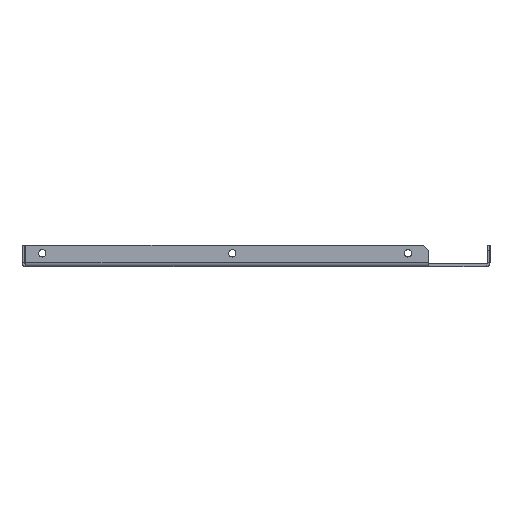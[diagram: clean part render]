
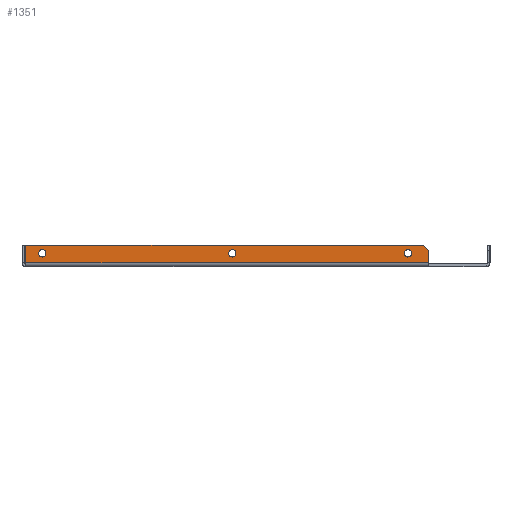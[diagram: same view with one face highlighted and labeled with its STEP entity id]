
A CAD part, left-side view. The second image highlights one B-rep face of the part: STEP entity #1351.
In plain terms, the highlighted planar face has unit normal (-1, 0, 0).
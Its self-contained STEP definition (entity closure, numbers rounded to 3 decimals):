
#306=CARTESIAN_POINT(' ',(-234.5,121.75,3.9));
#307=VERTEX_POINT(' ',#306);
#321=CARTESIAN_POINT(' ',(-234.5,121.75,6.));
#326=DIRECTION(' ',(-1.,0.,0.));
#331=DIRECTION(' ',(0.,0.,-1.));
#336=AXIS2_PLACEMENT_3D(' ',#321,#326,#331);
#341=CIRCLE('',#336,2.1);
#346=CARTESIAN_POINT(' ',(-234.5,121.75,8.1));
#347=VERTEX_POINT(' ',#346);
#351=EDGE_CURVE(' ',#307,#347,#341,.T.);
#891=CARTESIAN_POINT(' ',(-234.5,121.75,6.));
#896=DIRECTION(' ',(-1.,-0.,0.));
#901=DIRECTION(' ',(0.,0.,1.));
#906=AXIS2_PLACEMENT_3D(' ',#891,#896,#901);
#911=CIRCLE('',#906,2.1);
#916=EDGE_CURVE(' ',#347,#307,#911,.T.);
#941=DIRECTION(' ',(-1.,-0.,0.));
#946=CARTESIAN_POINT(' ',(-234.5,-98.25,10.5));
#951=DIRECTION(' ',(-0.,1.,0.));
#956=AXIS2_PLACEMENT_3D(' ',#946,#941,#951);
#961=PLANE('NONE',#956);
#966=CARTESIAN_POINT(' ',(-234.5,-98.25,7.5));
#971=DIRECTION(' ',(0.,0.,-1.));
#976=VECTOR(' ',#971,1.);
#981=LINE('',#966,#976);
#986=CARTESIAN_POINT(' ',(-234.5,-98.25,7.5));
#987=VERTEX_POINT(' ',#986);
#991=CARTESIAN_POINT(' ',(-234.5,-98.25,0.6));
#992=VERTEX_POINT(' ',#991);
#996=EDGE_CURVE(' ',#987,#992,#981,.T.);
#1001=ORIENTED_EDGE(' ',*,*,#996,.F.);
#1006=CARTESIAN_POINT(' ',(-234.5,-98.25,7.5));
#1011=DIRECTION(' ',(0.,0.707,0.707));
#1016=VECTOR(' ',#1011,1.);
#1021=LINE('',#1006,#1016);
#1026=CARTESIAN_POINT(' ',(-234.5,-95.25,10.5));
#1027=VERTEX_POINT(' ',#1026);
#1031=EDGE_CURVE(' ',#987,#1027,#1021,.T.);
#1036=ORIENTED_EDGE(' ',*,*,#1031,.T.);
#1041=CARTESIAN_POINT(' ',(-234.5,-95.25,10.5));
#1046=DIRECTION(' ',(0.,1.,0.));
#1051=VECTOR(' ',#1046,1.);
#1056=LINE('',#1041,#1051);
#1061=CARTESIAN_POINT(' ',(-234.5,131.043,10.5));
#1062=VERTEX_POINT(' ',#1061);
#1066=EDGE_CURVE(' ',#1027,#1062,#1056,.T.);
#1071=ORIENTED_EDGE(' ',*,*,#1066,.T.);
#1076=CARTESIAN_POINT(' ',(-234.5,131.043,0.6));
#1081=DIRECTION(' ',(0.,0.,1.));
#1086=VECTOR(' ',#1081,1.);
#1091=LINE('',#1076,#1086);
#1096=CARTESIAN_POINT(' ',(-234.5,131.043,0.6));
#1097=VERTEX_POINT(' ',#1096);
#1101=EDGE_CURVE(' ',#1097,#1062,#1091,.T.);
#1106=ORIENTED_EDGE(' ',*,*,#1101,.F.);
#1111=CARTESIAN_POINT(' ',(-234.5,-98.25,0.6));
#1116=DIRECTION(' ',(0.,1.,0.));
#1121=VECTOR(' ',#1116,1.);
#1126=LINE('',#1111,#1121);
#1131=EDGE_CURVE(' ',#992,#1097,#1126,.T.);
#1136=ORIENTED_EDGE(' ',*,*,#1131,.F.);
#1141=EDGE_LOOP(' ',(#1001,#1036,#1071,#1106,#1136));
#1146=FACE_OUTER_BOUND(' ',#1141,.T.);
#1151=ORIENTED_EDGE(' ',*,*,#916,.F.);
#1156=ORIENTED_EDGE(' ',*,*,#351,.F.);
#1161=EDGE_LOOP(' ',(#1151,#1156));
#1166=FACE_BOUND(' ',#1161,.T.);
#1171=CARTESIAN_POINT(' ',(-234.5,-86.5,6.));
#1176=DIRECTION(' ',(-1.,-0.,0.));
#1181=DIRECTION(' ',(0.,0.,1.));
#1186=AXIS2_PLACEMENT_3D(' ',#1171,#1176,#1181);
#1191=CIRCLE('',#1186,2.1);
#1196=CARTESIAN_POINT(' ',(-234.5,-86.5,8.1));
#1197=VERTEX_POINT(' ',#1196);
#1201=CARTESIAN_POINT(' ',(-234.5,-86.5,3.9));
#1202=VERTEX_POINT(' ',#1201);
#1206=EDGE_CURVE(' ',#1197,#1202,#1191,.T.);
#1211=ORIENTED_EDGE(' ',*,*,#1206,.F.);
#1216=CARTESIAN_POINT(' ',(-234.5,-86.5,6.));
#1221=DIRECTION(' ',(-1.,0.,0.));
#1226=DIRECTION(' ',(0.,0.,-1.));
#1231=AXIS2_PLACEMENT_3D(' ',#1216,#1221,#1226);
#1236=CIRCLE('',#1231,2.1);
#1241=EDGE_CURVE(' ',#1202,#1197,#1236,.T.);
#1246=ORIENTED_EDGE(' ',*,*,#1241,.F.);
#1251=EDGE_LOOP(' ',(#1211,#1246));
#1256=FACE_BOUND(' ',#1251,.T.);
#1261=CARTESIAN_POINT(' ',(-234.5,13.5,6.));
#1266=DIRECTION(' ',(-1.,0.,0.));
#1271=DIRECTION(' ',(0.,0.,1.));
#1276=AXIS2_PLACEMENT_3D(' ',#1261,#1266,#1271);
#1281=CIRCLE('',#1276,2.1);
#1286=CARTESIAN_POINT(' ',(-234.5,13.5,8.1));
#1287=VERTEX_POINT(' ',#1286);
#1291=CARTESIAN_POINT(' ',(-234.5,13.5,3.9));
#1292=VERTEX_POINT(' ',#1291);
#1296=EDGE_CURVE(' ',#1287,#1292,#1281,.T.);
#1301=ORIENTED_EDGE(' ',*,*,#1296,.F.);
#1306=CARTESIAN_POINT(' ',(-234.5,13.5,6.));
#1311=DIRECTION(' ',(-1.,0.,0.));
#1316=DIRECTION(' ',(0.,0.,-1.));
#1321=AXIS2_PLACEMENT_3D(' ',#1306,#1311,#1316);
#1326=CIRCLE('',#1321,2.1);
#1331=EDGE_CURVE(' ',#1292,#1287,#1326,.T.);
#1336=ORIENTED_EDGE(' ',*,*,#1331,.F.);
#1341=EDGE_LOOP(' ',(#1301,#1336));
#1346=FACE_BOUND(' ',#1341,.T.);
#1351=ADVANCED_FACE('NONE',(#1146,#1166,#1256,#1346),#961,.T.);
